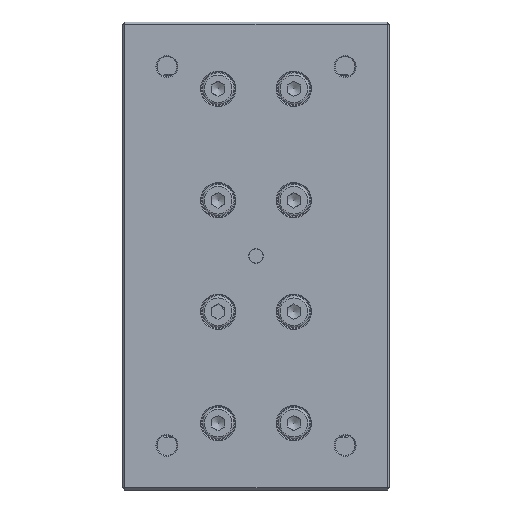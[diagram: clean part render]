
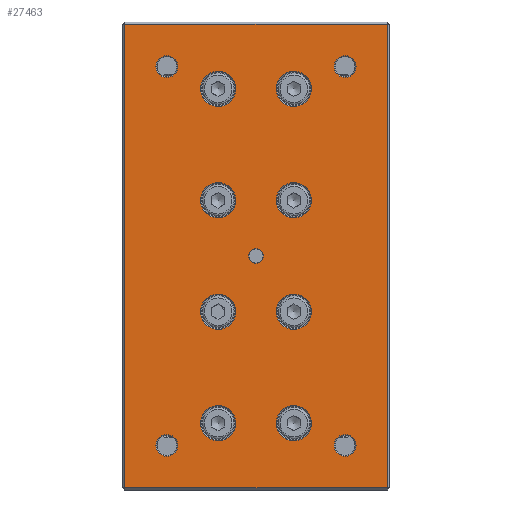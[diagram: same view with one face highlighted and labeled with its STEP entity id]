
A CAD part, front view. The second image highlights one B-rep face of the part: STEP entity #27463.
In plain terms, the highlighted planar face has unit normal (0, -1, 0).
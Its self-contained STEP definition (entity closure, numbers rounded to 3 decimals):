
#896=FACE_BOUND('',#4310,.T.);
#897=FACE_BOUND('',#4311,.T.);
#898=FACE_BOUND('',#4312,.T.);
#899=FACE_BOUND('',#4313,.T.);
#900=FACE_BOUND('',#4314,.T.);
#901=FACE_BOUND('',#4315,.T.);
#902=FACE_BOUND('',#4316,.T.);
#903=FACE_BOUND('',#4317,.T.);
#904=FACE_BOUND('',#4318,.T.);
#905=FACE_BOUND('',#4319,.T.);
#906=FACE_BOUND('',#4320,.T.);
#907=FACE_BOUND('',#4321,.T.);
#908=FACE_BOUND('',#4322,.T.);
#1611=PLANE('',#29278);
#2737=FACE_OUTER_BOUND('',#4309,.T.);
#4309=EDGE_LOOP('',(#20417,#20418,#20419,#20420));
#4310=EDGE_LOOP('',(#20421));
#4311=EDGE_LOOP('',(#20422));
#4312=EDGE_LOOP('',(#20423));
#4313=EDGE_LOOP('',(#20424));
#4314=EDGE_LOOP('',(#20425));
#4315=EDGE_LOOP('',(#20426));
#4316=EDGE_LOOP('',(#20427));
#4317=EDGE_LOOP('',(#20428));
#4318=EDGE_LOOP('',(#20429));
#4319=EDGE_LOOP('',(#20430));
#4320=EDGE_LOOP('',(#20431));
#4321=EDGE_LOOP('',(#20432));
#4322=EDGE_LOOP('',(#20433));
#5625=CIRCLE('',#29279,2.45);
#5626=CIRCLE('',#29280,2.45);
#5627=CIRCLE('',#29281,3.95);
#5628=CIRCLE('',#29282,3.95);
#5629=CIRCLE('',#29283,3.95);
#5630=CIRCLE('',#29284,3.95);
#5631=CIRCLE('',#29285,1.621);
#5632=CIRCLE('',#29286,3.95);
#5633=CIRCLE('',#29287,3.95);
#5634=CIRCLE('',#29288,3.95);
#5635=CIRCLE('',#29289,3.95);
#5636=CIRCLE('',#29290,2.45);
#5637=CIRCLE('',#29291,2.45);
#7103=LINE('',#41617,#9539);
#7105=LINE('',#41620,#9541);
#7106=LINE('',#41622,#9542);
#7112=LINE('',#41633,#9548);
#9539=VECTOR('',#33088,10.);
#9541=VECTOR('',#33092,10.);
#9542=VECTOR('',#33095,10.);
#9548=VECTOR('',#33111,10.);
#12036=VERTEX_POINT('',#41585);
#12038=VERTEX_POINT('',#41591);
#12043=VERTEX_POINT('',#41605);
#12045=VERTEX_POINT('',#41610);
#12048=VERTEX_POINT('',#41653);
#12049=VERTEX_POINT('',#41655);
#12050=VERTEX_POINT('',#41657);
#12051=VERTEX_POINT('',#41659);
#12052=VERTEX_POINT('',#41661);
#12053=VERTEX_POINT('',#41663);
#12054=VERTEX_POINT('',#41665);
#12055=VERTEX_POINT('',#41667);
#12056=VERTEX_POINT('',#41669);
#12057=VERTEX_POINT('',#41671);
#12058=VERTEX_POINT('',#41673);
#12059=VERTEX_POINT('',#41675);
#12060=VERTEX_POINT('',#41677);
#15086=EDGE_CURVE('',#12038,#12045,#7103,.T.);
#15088=EDGE_CURVE('',#12045,#12043,#7105,.T.);
#15089=EDGE_CURVE('',#12043,#12036,#7106,.T.);
#15095=EDGE_CURVE('',#12036,#12038,#7112,.T.);
#15105=EDGE_CURVE('',#12048,#12048,#5625,.T.);
#15106=EDGE_CURVE('',#12049,#12049,#5626,.T.);
#15107=EDGE_CURVE('',#12050,#12050,#5627,.T.);
#15108=EDGE_CURVE('',#12051,#12051,#5628,.T.);
#15109=EDGE_CURVE('',#12052,#12052,#5629,.T.);
#15110=EDGE_CURVE('',#12053,#12053,#5630,.T.);
#15111=EDGE_CURVE('',#12054,#12054,#5631,.T.);
#15112=EDGE_CURVE('',#12055,#12055,#5632,.T.);
#15113=EDGE_CURVE('',#12056,#12056,#5633,.T.);
#15114=EDGE_CURVE('',#12057,#12057,#5634,.T.);
#15115=EDGE_CURVE('',#12058,#12058,#5635,.T.);
#15116=EDGE_CURVE('',#12059,#12059,#5636,.T.);
#15117=EDGE_CURVE('',#12060,#12060,#5637,.T.);
#20417=ORIENTED_EDGE('',*,*,#15086,.F.);
#20418=ORIENTED_EDGE('',*,*,#15095,.F.);
#20419=ORIENTED_EDGE('',*,*,#15089,.F.);
#20420=ORIENTED_EDGE('',*,*,#15088,.F.);
#20421=ORIENTED_EDGE('',*,*,#15105,.F.);
#20422=ORIENTED_EDGE('',*,*,#15106,.F.);
#20423=ORIENTED_EDGE('',*,*,#15107,.F.);
#20424=ORIENTED_EDGE('',*,*,#15108,.F.);
#20425=ORIENTED_EDGE('',*,*,#15109,.F.);
#20426=ORIENTED_EDGE('',*,*,#15110,.F.);
#20427=ORIENTED_EDGE('',*,*,#15111,.T.);
#20428=ORIENTED_EDGE('',*,*,#15112,.F.);
#20429=ORIENTED_EDGE('',*,*,#15113,.F.);
#20430=ORIENTED_EDGE('',*,*,#15114,.F.);
#20431=ORIENTED_EDGE('',*,*,#15115,.F.);
#20432=ORIENTED_EDGE('',*,*,#15116,.F.);
#20433=ORIENTED_EDGE('',*,*,#15117,.F.);
#27463=ADVANCED_FACE('',(#2737,#896,#897,#898,#899,#900,#901,#902,#903,
#904,#905,#906,#907,#908),#1611,.T.);
#29278=AXIS2_PLACEMENT_3D('',#41652,#33137,#33138);
#29279=AXIS2_PLACEMENT_3D('',#41654,#33139,#33140);
#29280=AXIS2_PLACEMENT_3D('',#41656,#33141,#33142);
#29281=AXIS2_PLACEMENT_3D('',#41658,#33143,#33144);
#29282=AXIS2_PLACEMENT_3D('',#41660,#33145,#33146);
#29283=AXIS2_PLACEMENT_3D('',#41662,#33147,#33148);
#29284=AXIS2_PLACEMENT_3D('',#41664,#33149,#33150);
#29285=AXIS2_PLACEMENT_3D('',#41666,#33151,#33152);
#29286=AXIS2_PLACEMENT_3D('',#41668,#33153,#33154);
#29287=AXIS2_PLACEMENT_3D('',#41670,#33155,#33156);
#29288=AXIS2_PLACEMENT_3D('',#41672,#33157,#33158);
#29289=AXIS2_PLACEMENT_3D('',#41674,#33159,#33160);
#29290=AXIS2_PLACEMENT_3D('',#41676,#33161,#33162);
#29291=AXIS2_PLACEMENT_3D('',#41678,#33163,#33164);
#33088=DIRECTION('',(-1.,0.,0.));
#33092=DIRECTION('',(0.,0.,1.));
#33095=DIRECTION('',(1.,0.,0.));
#33111=DIRECTION('',(0.,0.,-1.));
#33137=DIRECTION('center_axis',(0.,-1.,0.));
#33138=DIRECTION('ref_axis',(1.,0.,0.));
#33139=DIRECTION('center_axis',(0.,-1.,0.));
#33140=DIRECTION('ref_axis',(1.,0.,0.));
#33141=DIRECTION('center_axis',(0.,-1.,0.));
#33142=DIRECTION('ref_axis',(1.,0.,0.));
#33143=DIRECTION('center_axis',(0.,-1.,0.));
#33144=DIRECTION('ref_axis',(-1.,0.,0.));
#33145=DIRECTION('center_axis',(0.,-1.,0.));
#33146=DIRECTION('ref_axis',(-1.,0.,0.));
#33147=DIRECTION('center_axis',(0.,-1.,0.));
#33148=DIRECTION('ref_axis',(-1.,0.,0.));
#33149=DIRECTION('center_axis',(0.,-1.,0.));
#33150=DIRECTION('ref_axis',(-1.,0.,0.));
#33151=DIRECTION('center_axis',(0.,1.,0.));
#33152=DIRECTION('ref_axis',(1.,0.,0.));
#33153=DIRECTION('center_axis',(0.,-1.,0.));
#33154=DIRECTION('ref_axis',(-1.,0.,0.));
#33155=DIRECTION('center_axis',(0.,-1.,0.));
#33156=DIRECTION('ref_axis',(-1.,0.,0.));
#33157=DIRECTION('center_axis',(0.,-1.,0.));
#33158=DIRECTION('ref_axis',(-1.,0.,0.));
#33159=DIRECTION('center_axis',(0.,-1.,0.));
#33160=DIRECTION('ref_axis',(-1.,0.,0.));
#33161=DIRECTION('center_axis',(0.,-1.,0.));
#33162=DIRECTION('ref_axis',(1.,0.,0.));
#33163=DIRECTION('center_axis',(0.,-1.,0.));
#33164=DIRECTION('ref_axis',(1.,0.,0.));
#41585=CARTESIAN_POINT('',(34.886,-24.507,13.622));
#41591=CARTESIAN_POINT('',(34.886,-24.507,-90.378));
#41605=CARTESIAN_POINT('',(-24.114,-24.507,13.622));
#41610=CARTESIAN_POINT('',(-24.114,-24.507,-90.378));
#41617=CARTESIAN_POINT('',(-9.614,-24.507,-90.378));
#41620=CARTESIAN_POINT('',(-24.114,-24.507,-90.878));
#41622=CARTESIAN_POINT('',(-9.614,-24.507,13.622));
#41633=CARTESIAN_POINT('',(34.886,-24.507,-90.878));
#41652=CARTESIAN_POINT('Origin',(-24.614,-24.507,-90.878));
#41653=CARTESIAN_POINT('',(-17.064,-24.507,4.122));
#41654=CARTESIAN_POINT('Origin',(-14.614,-24.507,4.122));
#41655=CARTESIAN_POINT('',(-17.064,-24.507,-80.878));
#41656=CARTESIAN_POINT('Origin',(-14.614,-24.507,-80.878));
#41657=CARTESIAN_POINT('',(0.836,-24.507,-0.878));
#41658=CARTESIAN_POINT('Origin',(-3.114,-24.507,-0.878));
#41659=CARTESIAN_POINT('',(0.836,-24.507,-25.878));
#41660=CARTESIAN_POINT('Origin',(-3.114,-24.507,-25.878));
#41661=CARTESIAN_POINT('',(0.836,-24.507,-50.878));
#41662=CARTESIAN_POINT('Origin',(-3.114,-24.507,-50.878));
#41663=CARTESIAN_POINT('',(0.836,-24.507,-75.878));
#41664=CARTESIAN_POINT('Origin',(-3.114,-24.507,-75.878));
#41665=CARTESIAN_POINT('',(3.765,-24.507,-38.378));
#41666=CARTESIAN_POINT('Origin',(5.386,-24.507,-38.378));
#41667=CARTESIAN_POINT('',(17.836,-24.507,-75.878));
#41668=CARTESIAN_POINT('Origin',(13.886,-24.507,-75.878));
#41669=CARTESIAN_POINT('',(17.836,-24.507,-50.878));
#41670=CARTESIAN_POINT('Origin',(13.886,-24.507,-50.878));
#41671=CARTESIAN_POINT('',(17.836,-24.507,-25.878));
#41672=CARTESIAN_POINT('Origin',(13.886,-24.507,-25.878));
#41673=CARTESIAN_POINT('',(17.836,-24.507,-0.878));
#41674=CARTESIAN_POINT('Origin',(13.886,-24.507,-0.878));
#41675=CARTESIAN_POINT('',(22.936,-24.507,-80.878));
#41676=CARTESIAN_POINT('Origin',(25.386,-24.507,-80.878));
#41677=CARTESIAN_POINT('',(22.936,-24.507,4.122));
#41678=CARTESIAN_POINT('Origin',(25.386,-24.507,4.122));
